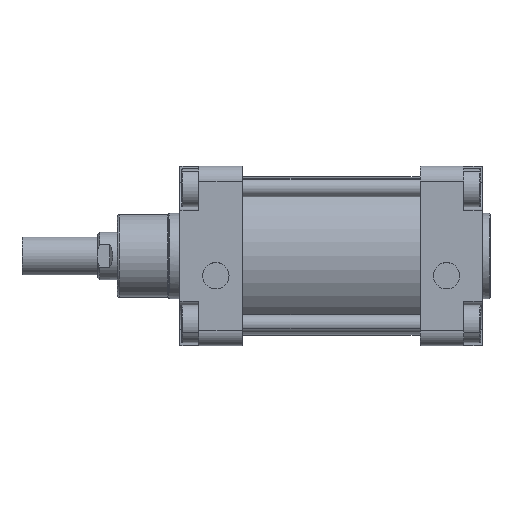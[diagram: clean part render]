
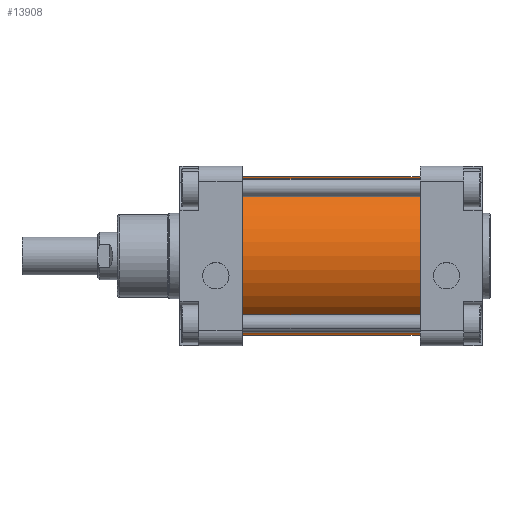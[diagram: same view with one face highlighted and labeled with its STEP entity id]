
A CAD part, top view. The second image highlights one B-rep face of the part: STEP entity #13908.
In plain terms, the highlighted cylindrical face has radius 42 mm (diameter 84 mm), a partial arc.
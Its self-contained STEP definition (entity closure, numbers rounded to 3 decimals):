
#13151=CARTESIAN_POINT('Vertex',(94.,-42.,0.)) ;
#13153=CARTESIAN_POINT('Vertex',(94.,42.,0.)) ;
#13156=CARTESIAN_POINT('Axis2P3D Location',(94.,0.,0.)) ;
#13866=CARTESIAN_POINT('Axis2P3D Location',(47.,0.,0.)) ;
#13871=CARTESIAN_POINT('Line Origine',(47.,-42.,0.)) ;
#13875=CARTESIAN_POINT('Vertex',(0.,-42.,0.)) ;
#13882=CARTESIAN_POINT('Vertex',(0.,42.,0.)) ;
#13885=CARTESIAN_POINT('Line Origine',(47.,42.,0.)) ;
#13897=CARTESIAN_POINT('Axis2P3D Location',(0.,0.,0.)) ;
#13157=DIRECTION('Axis2P3D Direction',(1.,0.,0.)) ;
#13867=DIRECTION('Axis2P3D Direction',(1.,0.,0.)) ;
#13868=DIRECTION('Axis2P3D XDirection',(0.,1.,0.)) ;
#13872=DIRECTION('Vector Direction',(1.,0.,0.)) ;
#13886=DIRECTION('Vector Direction',(1.,0.,0.)) ;
#13898=DIRECTION('Axis2P3D Direction',(1.,0.,0.)) ;
#13158=AXIS2_PLACEMENT_3D('Circle Axis2P3D',#13156,#13157,$) ;
#13869=AXIS2_PLACEMENT_3D('Cylinder Axis2P3D',#13866,#13867,#13868) ;
#13899=AXIS2_PLACEMENT_3D('Circle Axis2P3D',#13897,#13898,$) ;
#13903=ORIENTED_EDGE('',*,*,#13889,.F.) ;
#13904=ORIENTED_EDGE('',*,*,#13901,.T.) ;
#13905=ORIENTED_EDGE('',*,*,#13877,.T.) ;
#13906=ORIENTED_EDGE('',*,*,#13160,.F.) ;
#13873=VECTOR('Line Direction',#13872,1.) ;
#13887=VECTOR('Line Direction',#13886,1.) ;
#13908=ADVANCED_FACE('PartBody',(#13907),#13870,.T.) ;
#13159=CIRCLE('generated circle',#13158,42.) ;
#13900=CIRCLE('generated circle',#13899,42.) ;
#13870=CYLINDRICAL_SURFACE('generated cylinder',#13869,42.) ;
#13160=EDGE_CURVE('',#13154,#13152,#13159,.T.) ;
#13877=EDGE_CURVE('',#13876,#13152,#13874,.T.) ;
#13889=EDGE_CURVE('',#13883,#13154,#13888,.T.) ;
#13901=EDGE_CURVE('',#13883,#13876,#13900,.T.) ;
#13902=EDGE_LOOP('',(#13903,#13904,#13905,#13906)) ;
#13907=FACE_OUTER_BOUND('',#13902,.T.) ;
#13874=LINE('Line',#13871,#13873) ;
#13888=LINE('Line',#13885,#13887) ;
#13152=VERTEX_POINT('',#13151) ;
#13154=VERTEX_POINT('',#13153) ;
#13876=VERTEX_POINT('',#13875) ;
#13883=VERTEX_POINT('',#13882) ;
